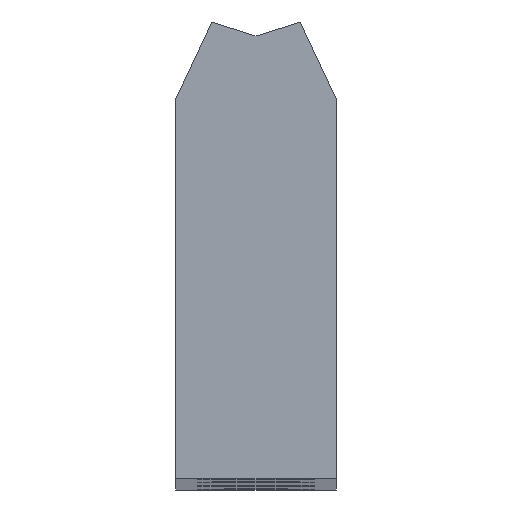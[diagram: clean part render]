
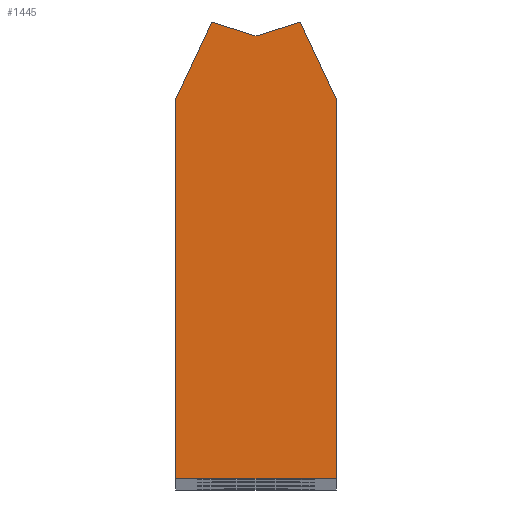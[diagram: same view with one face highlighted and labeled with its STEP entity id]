
A CAD part, top view. The second image highlights one B-rep face of the part: STEP entity #1445.
In plain terms, the highlighted planar face has unit normal (0, 0, 1).
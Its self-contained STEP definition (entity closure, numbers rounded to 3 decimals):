
#78 = LINE ( 'NONE', #1985, #3362 ) ;
#174 = DIRECTION ( 'NONE',  ( 1., 0., 0. ) ) ;
#272 = CARTESIAN_POINT ( 'NONE',  ( -7.5, 0., 299.75 ) ) ;
#397 = ORIENTED_EDGE ( 'NONE', *, *, #3024, .T. ) ;
#408 = VERTEX_POINT ( 'NONE', #3930 ) ;
#422 = CARTESIAN_POINT ( 'NONE',  ( -4.15, 42.823, 299.75 ) ) ;
#471 = PLANE ( 'NONE',  #2969 ) ;
#551 = CARTESIAN_POINT ( 'NONE',  ( 7.5, 0., 299.75 ) ) ;
#596 = CARTESIAN_POINT ( 'NONE',  ( -7.5, 0., 299.75 ) ) ;
#683 = DIRECTION ( 'NONE',  ( 0., -1., 0. ) ) ;
#687 = VECTOR ( 'NONE', #1328, 1000. ) ;
#705 = VERTEX_POINT ( 'NONE', #3868 ) ;
#841 = VECTOR ( 'NONE', #683, 1000. ) ;
#853 = DIRECTION ( 'NONE',  ( 0., 0., 1. ) ) ;
#931 = DIRECTION ( 'NONE',  ( 1., 0., 0. ) ) ;
#1001 = ORIENTED_EDGE ( 'NONE', *, *, #2453, .T. ) ;
#1022 = EDGE_LOOP ( 'NONE', ( #3443, #3754, #1001, #1081, #397, #3835, #3356 ) ) ;
#1081 = ORIENTED_EDGE ( 'NONE', *, *, #4064, .T. ) ;
#1261 = VECTOR ( 'NONE', #1729, 1000. ) ;
#1325 = DIRECTION ( 'NONE',  ( 0., 1., 0. ) ) ;
#1328 = DIRECTION ( 'NONE',  ( -0.423, -0.906, 0. ) ) ;
#1445 = ADVANCED_FACE ( 'NONE', ( #3336 ), #471, .T. ) ;
#1640 = CARTESIAN_POINT ( 'NONE',  ( -7.5, 35.639, 299.75 ) ) ;
#1653 = LINE ( 'NONE', #422, #687 ) ;
#1659 = EDGE_CURVE ( 'NONE', #2742, #2516, #1653, .T. ) ;
#1729 = DIRECTION ( 'NONE',  ( -0.954, 0.301, 0. ) ) ;
#1931 = CARTESIAN_POINT ( 'NONE',  ( -7.5, 35.639, 299.75 ) ) ;
#1985 = CARTESIAN_POINT ( 'NONE',  ( 7.5, 0., 299.75 ) ) ;
#2039 = LINE ( 'NONE', #3339, #1261 ) ;
#2213 = LINE ( 'NONE', #1931, #841 ) ;
#2240 = LINE ( 'NONE', #272, #4018 ) ;
#2330 = VERTEX_POINT ( 'NONE', #3999 ) ;
#2351 = VERTEX_POINT ( 'NONE', #596 ) ;
#2453 = EDGE_CURVE ( 'NONE', #2516, #2351, #2213, .T. ) ;
#2516 = VERTEX_POINT ( 'NONE', #1640 ) ;
#2583 = VECTOR ( 'NONE', #3363, 1000. ) ;
#2588 = EDGE_CURVE ( 'NONE', #2330, #408, #3855, .T. ) ;
#2609 = CARTESIAN_POINT ( 'NONE',  ( 4.15, 42.823, 299.75 ) ) ;
#2742 = VERTEX_POINT ( 'NONE', #3341 ) ;
#2969 = AXIS2_PLACEMENT_3D ( 'NONE', #3723, #853, #174 ) ;
#3024 = EDGE_CURVE ( 'NONE', #3636, #705, #78, .T. ) ;
#3066 = CARTESIAN_POINT ( 'NONE',  ( 7.5, 35.639, 299.75 ) ) ;
#3336 = FACE_OUTER_BOUND ( 'NONE', #1022, .T. ) ;
#3339 = CARTESIAN_POINT ( 'NONE',  ( 0., 41.515, 299.75 ) ) ;
#3341 = CARTESIAN_POINT ( 'NONE',  ( -4.15, 42.823, 299.75 ) ) ;
#3356 = ORIENTED_EDGE ( 'NONE', *, *, #2588, .T. ) ;
#3362 = VECTOR ( 'NONE', #1325, 1000. ) ;
#3363 = DIRECTION ( 'NONE',  ( -0.423, 0.906, 0. ) ) ;
#3443 = ORIENTED_EDGE ( 'NONE', *, *, #3998, .T. ) ;
#3479 = EDGE_CURVE ( 'NONE', #705, #2330, #4031, .T. ) ;
#3636 = VERTEX_POINT ( 'NONE', #551 ) ;
#3723 = CARTESIAN_POINT ( 'NONE',  ( 0., 0., 299.75 ) ) ;
#3754 = ORIENTED_EDGE ( 'NONE', *, *, #1659, .T. ) ;
#3835 = ORIENTED_EDGE ( 'NONE', *, *, #3479, .T. ) ;
#3855 = LINE ( 'NONE', #2609, #4130 ) ;
#3868 = CARTESIAN_POINT ( 'NONE',  ( 7.5, 35.639, 299.75 ) ) ;
#3930 = CARTESIAN_POINT ( 'NONE',  ( 0., 41.515, 299.75 ) ) ;
#3998 = EDGE_CURVE ( 'NONE', #408, #2742, #2039, .T. ) ;
#3999 = CARTESIAN_POINT ( 'NONE',  ( 4.15, 42.823, 299.75 ) ) ;
#4018 = VECTOR ( 'NONE', #931, 1000. ) ;
#4031 = LINE ( 'NONE', #3066, #2583 ) ;
#4064 = EDGE_CURVE ( 'NONE', #2351, #3636, #2240, .T. ) ;
#4130 = VECTOR ( 'NONE', #4143, 1000. ) ;
#4143 = DIRECTION ( 'NONE',  ( -0.954, -0.301, 0. ) ) ;
